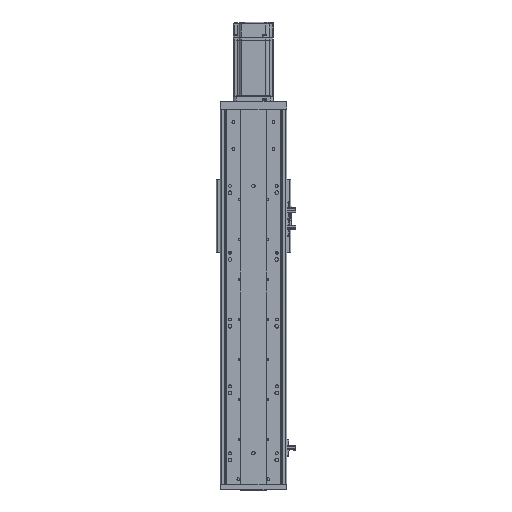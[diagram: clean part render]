
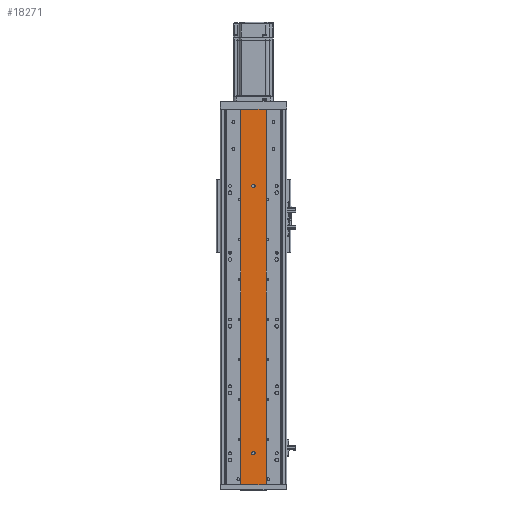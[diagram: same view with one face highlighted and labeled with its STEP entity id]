
A CAD part, top view. The second image highlights one B-rep face of the part: STEP entity #18271.
In plain terms, the highlighted planar face has unit normal (0, 0, 1).
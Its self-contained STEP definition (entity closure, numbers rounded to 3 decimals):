
#3732 = AXIS2_PLACEMENT_3D ( 'NONE', #7037, #7008, #7034 ) ;
#3810 = AXIS2_PLACEMENT_3D ( 'NONE', #7048, #7063, #7049 ) ;
#5967 = CIRCLE ( 'NONE', #3810, 2.5 ) ;
#5977 = CIRCLE ( 'NONE', #3732, 2.5 ) ;
#7008 = DIRECTION ( 'NONE',  ( 0., 0., -1. ) ) ;
#7034 = DIRECTION ( 'NONE',  ( -1., 0., 0. ) ) ;
#7037 = CARTESIAN_POINT ( 'NONE',  ( -10626.079, 47., -17040.86 ) ) ;
#7048 = CARTESIAN_POINT ( 'NONE',  ( -10626.079, 447., -17040.86 ) ) ;
#7049 = DIRECTION ( 'NONE',  ( -1., 0., 0. ) ) ;
#7063 = DIRECTION ( 'NONE',  ( 0., 0., -1. ) ) ;
#13548 = CARTESIAN_POINT ( 'NONE',  ( -10607.079, 0., -17040.86 ) ) ;
#14012 = CARTESIAN_POINT ( 'NONE',  ( -10623.579, 447., -17040.86 ) ) ;
#14024 = CARTESIAN_POINT ( 'NONE',  ( -10628.579, 447., -17040.86 ) ) ;
#14090 = CARTESIAN_POINT ( 'NONE',  ( -10628.579, 47., -17040.86 ) ) ;
#14100 = CARTESIAN_POINT ( 'NONE',  ( -10623.579, 47., -17040.86 ) ) ;
#14514 = CARTESIAN_POINT ( 'NONE',  ( -10645.079, 562., -17040.86 ) ) ;
#14539 = CARTESIAN_POINT ( 'NONE',  ( -10607.079, 562., -17040.86 ) ) ;
#14573 = CARTESIAN_POINT ( 'NONE',  ( -10645.079, 0., -17040.86 ) ) ;
#15014 = EDGE_CURVE ( 'NONE', #28938, #27653, #34325, .T. ) ;
#15031 = EDGE_CURVE ( 'NONE', #28412, #28431, #34400, .T. ) ;
#15034 = EDGE_CURVE ( 'NONE', #28453, #28452, #34361, .T. ) ;
#15050 = EDGE_CURVE ( 'NONE', #28947, #28970, #34401, .T. ) ;
#15067 = EDGE_CURVE ( 'NONE', #28970, #27653, #34397, .T. ) ;
#15132 = EDGE_CURVE ( 'NONE', #28947, #28938, #34534, .T. ) ;
#18271 = ADVANCED_FACE ( 'NONE', ( #39793, #39749, #39764 ), #40943, .F. ) ;
#20134 = EDGE_CURVE ( 'NONE', #28452, #28453, #5977, .T. ) ;
#20147 = EDGE_CURVE ( 'NONE', #28431, #28412, #5967, .T. ) ;
#27653 = VERTEX_POINT ( 'NONE', #13548 ) ;
#28412 = VERTEX_POINT ( 'NONE', #14024 ) ;
#28431 = VERTEX_POINT ( 'NONE', #14012 ) ;
#28452 = VERTEX_POINT ( 'NONE', #14100 ) ;
#28453 = VERTEX_POINT ( 'NONE', #14090 ) ;
#28938 = VERTEX_POINT ( 'NONE', #14539 ) ;
#28947 = VERTEX_POINT ( 'NONE', #14514 ) ;
#28970 = VERTEX_POINT ( 'NONE', #14573 ) ;
#29970 = EDGE_LOOP ( 'NONE', ( #31074, #31024, #31048, #31043 ) ) ;
#29979 = EDGE_LOOP ( 'NONE', ( #31128, #31077 ) ) ;
#29986 = EDGE_LOOP ( 'NONE', ( #31069, #31082 ) ) ;
#31024 = ORIENTED_EDGE ( 'NONE', *, *, #15014, .F. ) ;
#31043 = ORIENTED_EDGE ( 'NONE', *, *, #15050, .T. ) ;
#31048 = ORIENTED_EDGE ( 'NONE', *, *, #15132, .F. ) ;
#31069 = ORIENTED_EDGE ( 'NONE', *, *, #20147, .T. ) ;
#31074 = ORIENTED_EDGE ( 'NONE', *, *, #15067, .T. ) ;
#31077 = ORIENTED_EDGE ( 'NONE', *, *, #15034, .T. ) ;
#31082 = ORIENTED_EDGE ( 'NONE', *, *, #15031, .T. ) ;
#31128 = ORIENTED_EDGE ( 'NONE', *, *, #20134, .T. ) ;
#33465 = CARTESIAN_POINT ( 'NONE',  ( -10607.079, 562., -17040.86 ) ) ;
#33489 = DIRECTION ( 'NONE',  ( 0., -1., 0. ) ) ;
#33504 = CARTESIAN_POINT ( 'NONE',  ( -10626.079, 47., -17040.86 ) ) ;
#33509 = CARTESIAN_POINT ( 'NONE',  ( -10626.079, 447., -17040.86 ) ) ;
#33527 = DIRECTION ( 'NONE',  ( -1., 0., 0. ) ) ;
#33528 = DIRECTION ( 'NONE',  ( 0., 0., -1. ) ) ;
#33540 = DIRECTION ( 'NONE',  ( -1., 0., 0. ) ) ;
#33541 = DIRECTION ( 'NONE',  ( 0., 0., -1. ) ) ;
#33555 = CARTESIAN_POINT ( 'NONE',  ( -10645.079, 562., -17040.86 ) ) ;
#33579 = DIRECTION ( 'NONE',  ( 0., -1., 0. ) ) ;
#33583 = DIRECTION ( 'NONE',  ( 1., 0., 0. ) ) ;
#33606 = CARTESIAN_POINT ( 'NONE',  ( -10645.079, 0., -17040.86 ) ) ;
#33760 = CARTESIAN_POINT ( 'NONE',  ( -10645.079, 562., -17040.86 ) ) ;
#33761 = DIRECTION ( 'NONE',  ( 1., 0., 0. ) ) ;
#34325 = LINE ( 'NONE', #33465, #34342 ) ;
#34342 = VECTOR ( 'NONE', #33489, 1000. ) ;
#34361 = CIRCLE ( 'NONE', #35374, 2.5 ) ;
#34368 = VECTOR ( 'NONE', #33579, 1000. ) ;
#34397 = LINE ( 'NONE', #33606, #34460 ) ;
#34400 = CIRCLE ( 'NONE', #35352, 2.5 ) ;
#34401 = LINE ( 'NONE', #33555, #34368 ) ;
#34460 = VECTOR ( 'NONE', #33583, 1000. ) ;
#34515 = VECTOR ( 'NONE', #33761, 1000. ) ;
#34534 = LINE ( 'NONE', #33760, #34515 ) ;
#35352 = AXIS2_PLACEMENT_3D ( 'NONE', #33509, #33541, #33540 ) ;
#35374 = AXIS2_PLACEMENT_3D ( 'NONE', #33504, #33528, #33527 ) ;
#35888 = AXIS2_PLACEMENT_3D ( 'NONE', #40978, #40962, #40964 ) ;
#39749 = FACE_BOUND ( 'NONE', #29979, .T. ) ;
#39764 = FACE_OUTER_BOUND ( 'NONE', #29970, .T. ) ;
#39793 = FACE_BOUND ( 'NONE', #29986, .T. ) ;
#40943 = PLANE ( 'NONE',  #35888 ) ;
#40962 = DIRECTION ( 'NONE',  ( 0., 0., -1. ) ) ;
#40964 = DIRECTION ( 'NONE',  ( -1., 0., 0. ) ) ;
#40978 = CARTESIAN_POINT ( 'NONE',  ( -10645.079, 562., -17040.86 ) ) ;
